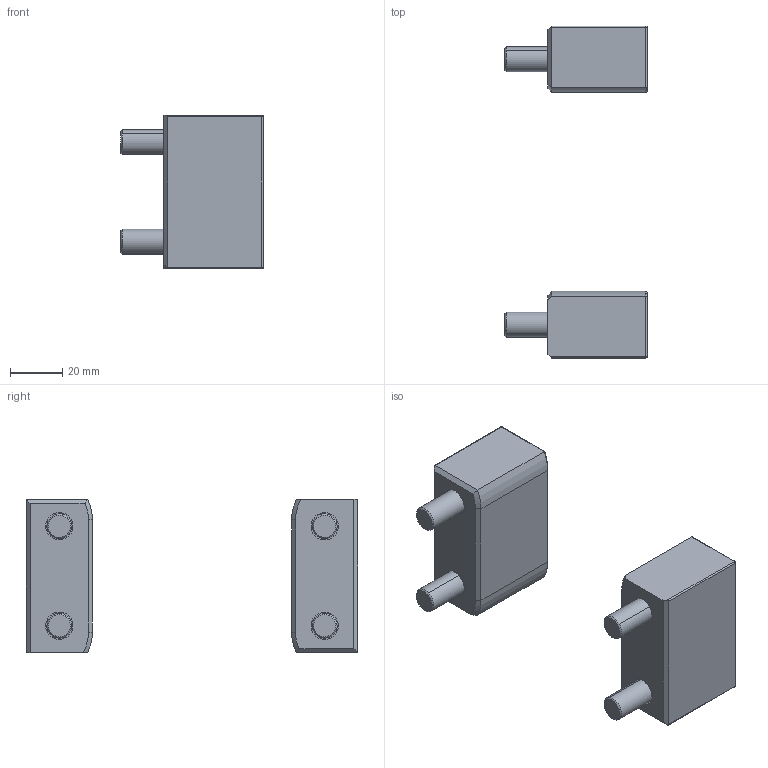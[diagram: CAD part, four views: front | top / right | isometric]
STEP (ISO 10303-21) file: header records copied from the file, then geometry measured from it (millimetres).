
FILE_DESCRIPTION (( 'STEP AP203' ), '1' );
FILE_NAME ('BLG150L2.3.step', '2016-11-21T18:57:04', ( '' ), ( '' ), 'SwSTEP 2.0', 'SolidWorks 2014', '' );
FILE_SCHEMA (( 'CONFIG_CONTROL_DESIGN' ));
Length unit declared in the file: inch
Products named in the file (3): 3-8-16x175 SHCS; BLG150L2.3
Assembly tree (6 placements, depth 2):
  BLG150L2.3
    BLG150L2.3  x2
    3-8-16x175 SHCS  x4
Bounding box: 54.61 x 127.04 x 58.7 mm (x, y, z)
Volume: 112641 mm3; surface area: 31884.8 mm2
Topology: 6 solids, 6 shells, 162 faces, 352 edges, 210 vertices
Faces by surface type: plane 86, cylinder 48, cone 12, torus 12, sphere 4
Entity records: 1995 total; most frequent: DIRECTION 295, CARTESIAN_POINT 290, ORIENTED_EDGE 248, EDGE_CURVE 124, AXIS2_PLACEMENT_3D 112, VERTEX_POINT 75, LINE 71, VECTOR 71
